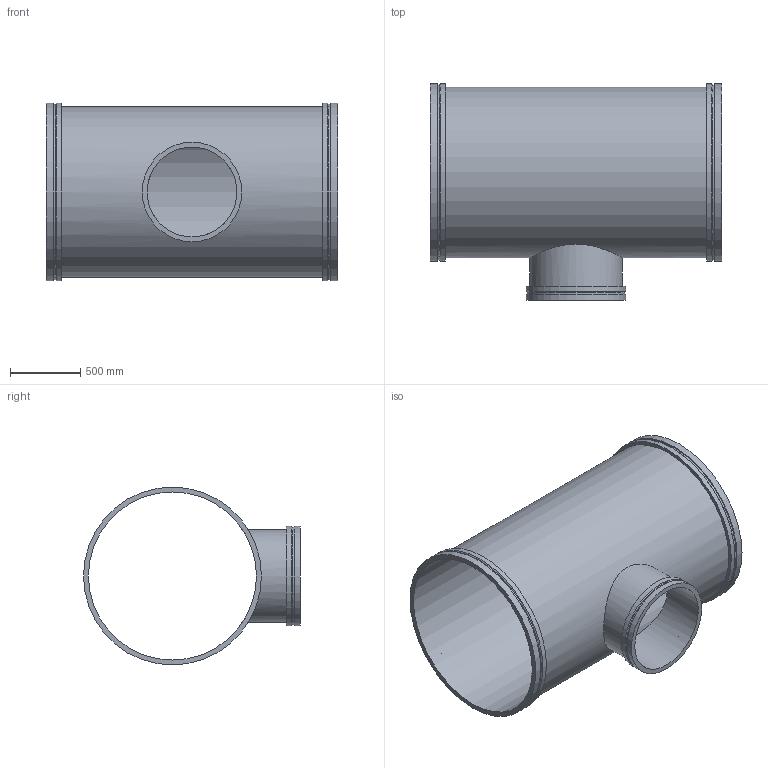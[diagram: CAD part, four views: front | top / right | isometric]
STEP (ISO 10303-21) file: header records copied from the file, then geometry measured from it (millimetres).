
FILE_DESCRIPTION(/* description */ ('VIC REDUCING TEE No W025 VR','CAx-IF Rec.Pracs.---Representation and Presentation of Product Manufacturing Information (PMI)---4.0---2014-10-13'),/* implementation_level */ '2;1');
FILE_NAME(/* name */ 'C:\Users\kkamble\AppData\Roaming\Autodesk\ApplicationPlugins\Back Up\Victaulic_Vic-Ring_Tee Reducing_No W25 VR (AGR)\Victaulic_Vic-Ring_Tee Reducing_No W25 VR (AGR)_48.0x26.0 (1200x650).stp',/* time_stamp */ '2020-09-10T11:57:01+05:00',/* author */ ('mchristi'),/* organization */ ('Victaulic'),/* preprocessor_version */ 'ST-DEVELOPER v17.2',/* originating_system */ 'Autodesk Inventor 2019',/* authorisation */ '');
FILE_SCHEMA (('AP242_MANAGED_MODEL_BASED_3D_ENGINEERING_MIM_LF { 1 0 10303 442 1 1 4 }'));
Length unit declared in the file: inch
Products named in the file (1): W25 VR-48.0x26.0
Bounding box: 2082.8 x 1549.4 x 1270 mm (x, y, z)
Volume: 104701979.2 mm3; surface area: 17356230.4 mm2
Topology: 1 solids, 1 shells, 25 faces, 68 edges, 52 vertices
Faces by surface type: cylinder 13, plane 9, cone 3
Full cylindrical faces by diameter (mm): 641.35 x1, 660.4 x1, 696.722 x1, 711.2 x2, 1200.15 x1, 1219.2 x1, 1254.125 x2, 1270 x4
Entity records: 1267 total; most frequent: CARTESIAN_POINT 423, DIRECTION 190, ORIENTED_EDGE 136, AXIS2_PLACEMENT_3D 87, EDGE_CURVE 68, VERTEX_POINT 52, CIRCLE 48, EDGE_LOOP 36
